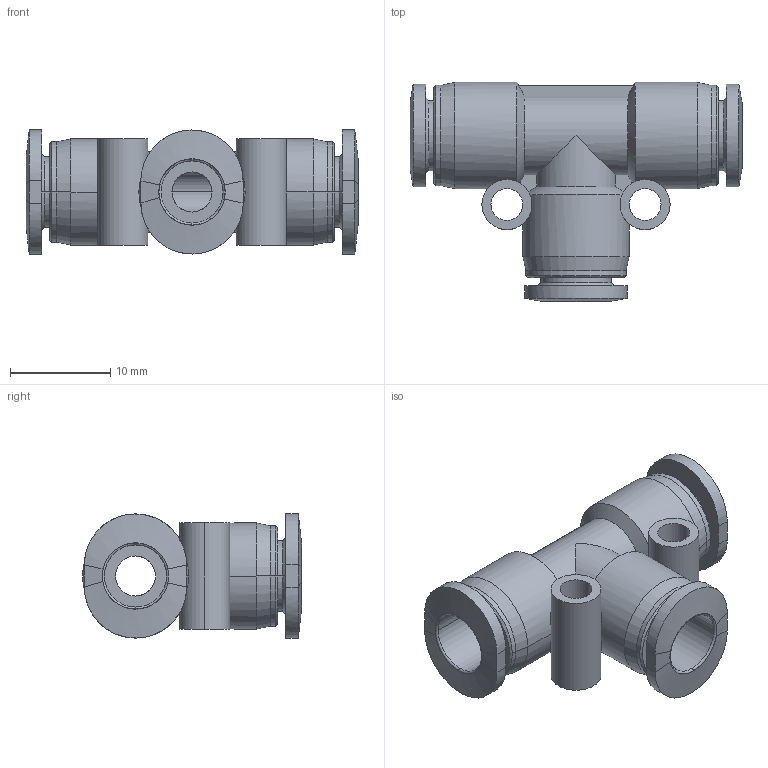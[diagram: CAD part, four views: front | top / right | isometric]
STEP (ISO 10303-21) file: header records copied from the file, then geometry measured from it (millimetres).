
FILE_DESCRIPTION (( 'STEP AP203' ), '1' );
FILE_NAME ('FMT06-00.STEP', '2020-07-07T11:18:17', ( '' ), ( '' ), 'SwSTEP 2.0', 'SolidWorks 2019', '' );
FILE_SCHEMA (( 'CONFIG_CONTROL_DESIGN' ));
Length unit declared in the file: millimetre
Products named in the file (1): FMT06-00
Bounding box: 33.16 x 21.88 x 12.4 mm (x, y, z)
Volume: 2418.3 mm3; surface area: 3299.6 mm2
Topology: 1 solids, 1 shells, 117 faces, 285 edges, 178 vertices
Faces by surface type: cylinder 42, cone 24, bspline 24, plane 21, torus 6
Entity records: 4571 total; most frequent: CARTESIAN_POINT 1862, ORIENTED_EDGE 570, DIRECTION 527, EDGE_CURVE 285, AXIS2_PLACEMENT_3D 216, VERTEX_POINT 178, EDGE_LOOP 133, CIRCLE 122
